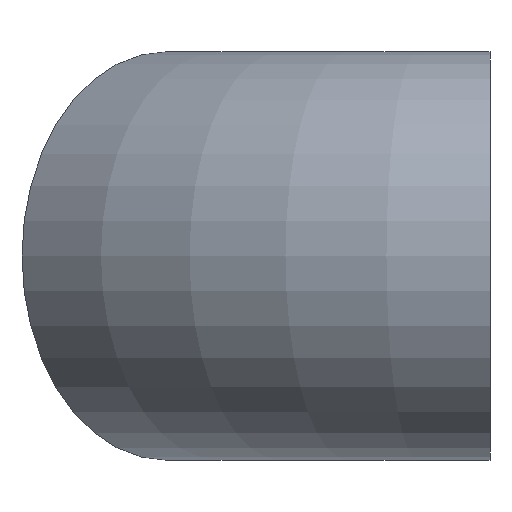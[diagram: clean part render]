
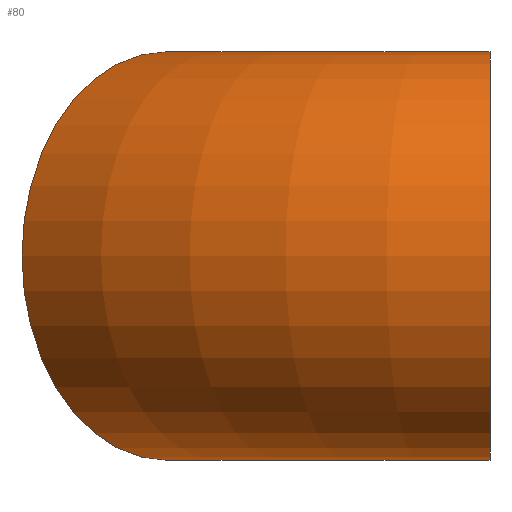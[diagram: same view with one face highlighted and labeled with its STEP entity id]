
A CAD part, left-side view. The second image highlights one B-rep face of the part: STEP entity #80.
In plain terms, the highlighted toroidal (fillet/blend) face has major radius 38.1 mm and minor radius 17 mm.
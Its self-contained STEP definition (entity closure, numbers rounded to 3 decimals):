
#20=FACE_OUTER_BOUND('',#24,.T.);
#24=EDGE_LOOP('',(#63,#64,#65,#66,#67,#68));
#34=CIRCLE('',#110,17.);
#35=CIRCLE('',#111,17.);
#36=CIRCLE('',#112,21.1);
#37=CIRCLE('',#113,17.);
#38=CIRCLE('',#114,17.);
#43=VERTEX_POINT('',#159);
#44=VERTEX_POINT('',#160);
#45=VERTEX_POINT('',#163);
#46=VERTEX_POINT('',#165);
#52=EDGE_CURVE('',#43,#44,#34,.T.);
#53=EDGE_CURVE('',#44,#43,#35,.T.);
#54=EDGE_CURVE('',#44,#45,#36,.T.);
#55=EDGE_CURVE('',#45,#46,#37,.T.);
#56=EDGE_CURVE('',#46,#45,#38,.T.);
#63=ORIENTED_EDGE('',*,*,#52,.F.);
#64=ORIENTED_EDGE('',*,*,#53,.F.);
#65=ORIENTED_EDGE('',*,*,#54,.T.);
#66=ORIENTED_EDGE('',*,*,#55,.T.);
#67=ORIENTED_EDGE('',*,*,#56,.T.);
#68=ORIENTED_EDGE('',*,*,#54,.F.);
#78=TOROIDAL_SURFACE('',#109,38.1,17.);
#80=ADVANCED_FACE('',(#20),#78,.T.);
#109=AXIS2_PLACEMENT_3D('',#158,#131,#132);
#110=AXIS2_PLACEMENT_3D('',#161,#133,#134);
#111=AXIS2_PLACEMENT_3D('',#162,#135,#136);
#112=AXIS2_PLACEMENT_3D('',#164,#137,#138);
#113=AXIS2_PLACEMENT_3D('',#166,#139,#140);
#114=AXIS2_PLACEMENT_3D('',#167,#141,#142);
#131=DIRECTION('center_axis',(0.,0.,-1.));
#132=DIRECTION('ref_axis',(-1.,0.,0.));
#133=DIRECTION('center_axis',(0.707,0.707,0.));
#134=DIRECTION('ref_axis',(-0.707,0.707,0.));
#135=DIRECTION('center_axis',(0.707,0.707,0.));
#136=DIRECTION('ref_axis',(-0.707,0.707,0.));
#137=DIRECTION('center_axis',(0.,0.,1.));
#138=DIRECTION('ref_axis',(-1.,0.,0.));
#139=DIRECTION('center_axis',(0.,1.,0.));
#140=DIRECTION('ref_axis',(-1.,0.,0.));
#141=DIRECTION('center_axis',(0.,1.,0.));
#142=DIRECTION('ref_axis',(-1.,0.,0.));
#158=CARTESIAN_POINT('Origin',(0.,0.,0.));
#159=CARTESIAN_POINT('',(-38.962,38.962,0.));
#160=CARTESIAN_POINT('',(-14.92,14.92,0.));
#161=CARTESIAN_POINT('Origin',(-26.941,26.941,0.));
#162=CARTESIAN_POINT('Origin',(-26.941,26.941,0.));
#163=CARTESIAN_POINT('',(-21.1,0.,0.));
#164=CARTESIAN_POINT('Origin',(0.,0.,0.));
#165=CARTESIAN_POINT('',(-55.1,0.,0.));
#166=CARTESIAN_POINT('Origin',(-38.1,0.,0.));
#167=CARTESIAN_POINT('Origin',(-38.1,0.,0.));
